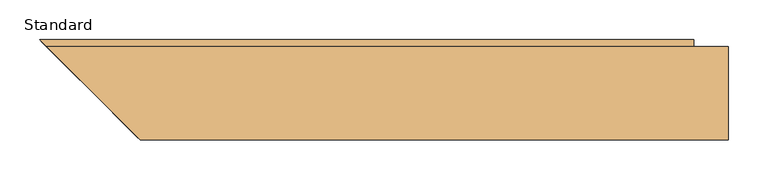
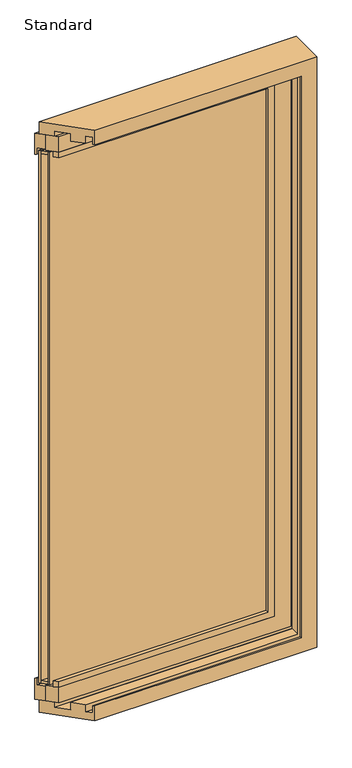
"""IFC4 building model written with IfcOpenShell, lengths in millimetres: door geometry, SMARTS_Visoglide Plus Corner : Standard."""

import ifcopenshell
import ifcopenshell.guid

model = None  # the IFC model being written
_history = None  # IfcOwnerHistory: only IFC2X3 demands one
_inside = {}  # id of a spatial element -> (the spatial element, [elements in it])
_under = {}  # id of a project, library or spatial element -> (it, [spatial elements below it])
_declared = {}  # id of a project -> (the project, [libraries it declares])
_typed = {}  # id of a type object -> (the type object, [elements of that type])
_made_of = {}  # id of a material, layer set ... -> (it, [elements and type objects made of it])


def new_model(schema):
    """Start an empty IFC model of exactly this schema.

    Asked for "IFC4X3", IfcOpenShell would pick the latest addendum, in which some entities
    have other attributes; the version numbers below select the first issue.
    IFC2X3 requires an IfcOwnerHistory on every rooted entity: one is made here for all.
    """
    global model, _history
    if schema == "IFC4X3":
        model = ifcopenshell.file(schema_version=(4, 3, 0, 0))
    else:
        model = ifcopenshell.file(schema=schema)
    _inside.clear()
    _under.clear()
    _declared.clear()
    _typed.clear()
    _made_of.clear()
    _history = None
    if model.schema == "IFC2X3":
        org = make("IfcOrganization", Name="unknown")
        user = make(
            "IfcPersonAndOrganization",
            ThePerson=make("IfcPerson", FamilyName="unknown"),
            TheOrganization=org,
        )
        app = make(
            "IfcApplication",
            ApplicationDeveloper=org,
            Version="unknown",
            ApplicationFullName="unknown",
            ApplicationIdentifier="unknown",
        )
        _history = make(
            "IfcOwnerHistory",
            OwningUser=user,
            OwningApplication=app,
            ChangeAction="ADDED",
            CreationDate=0,
        )
    return model


def make(cls, **values):
    """One entity of the class cls with the attributes given. An attribute that is None is left unset."""
    return model.create_entity(
        cls, **{name: value for name, value in values.items() if value is not None}
    )


def rooted(cls, **values):
    """An entity with a GlobalId (a new one), such as an element, a storey or a relation."""
    return make(cls, GlobalId=ifcopenshell.guid.new(), OwnerHistory=_history, **values)


def si_unit(unit_type, name, prefix=None):
    """IfcSIUnit, for example si_unit("LENGTHUNIT", "METRE", prefix="MILLI")."""
    return make("IfcSIUnit", UnitType=unit_type, Prefix=prefix, Name=name)


def assignment(units):
    """IfcUnitAssignment: the units of a project."""
    return None if units is None else make("IfcUnitAssignment", Units=units)


def point(xyz):
    """IfcCartesianPoint."""
    return None if xyz is None else make("IfcCartesianPoint", Coordinates=xyz)


def direction(xyz):
    """IfcDirection."""
    return None if xyz is None else make("IfcDirection", DirectionRatios=xyz)


def frame(location, z_axis=None, x_axis=None):
    """IfcAxis2Placement3D, a coordinate frame: its origin and axes. An axis left out is left unset."""
    return make(
        "IfcAxis2Placement3D",
        Location=point(location),
        Axis=direction(z_axis),
        RefDirection=direction(x_axis),
    )


def origin():
    """The frame at (0, 0, 0) with its axes left unset."""
    return frame((0.0, 0.0, 0.0))


def place(relative_to, where):
    """IfcLocalPlacement: puts the frame where relative to a parent placement (None: the world)."""
    return make(
        "IfcLocalPlacement", PlacementRelTo=relative_to, RelativePlacement=where
    )


def context(
    kind, dimensions, precision=None, world=None, true_north=None, identifier=None
):
    """IfcGeometricRepresentationContext, for example the 3D "Model" context."""
    return make(
        "IfcGeometricRepresentationContext",
        ContextIdentifier=identifier,
        ContextType=kind,
        CoordinateSpaceDimension=dimensions,
        Precision=precision,
        WorldCoordinateSystem=world,
        TrueNorth=true_north,
    )


def project(units=None, contexts=None):
    """IfcProject with its units and contexts."""
    return rooted(
        "IfcProject",
        Name="project",
        RepresentationContexts=contexts,
        UnitsInContext=assignment(units),
    )


def spatial(cls, under=None, at=None, **own):
    """A site, building, storey or space (cls), placed at a placement, below another one or the project."""
    s = rooted(cls, ObjectPlacement=at, **own)
    if under is not None:
        _under.setdefault(under.id(), (under, []))[1].append(s)
    return s


def polyline(points):
    """IfcPolyline through the points."""
    return make("IfcPolyline", Points=[point(p) for p in points])


def outline(outer, holes=None, kind="AREA"):
    """IfcArbitraryClosedProfileDef: a profile drawn as a closed curve; with holes, ...WithVoids."""
    if holes is None:
        return make("IfcArbitraryClosedProfileDef", ProfileType=kind, OuterCurve=outer)
    return make(
        "IfcArbitraryProfileDefWithVoids",
        ProfileType=kind,
        OuterCurve=outer,
        InnerCurves=holes,
    )


def extrude(swept, where, along, depth):
    """IfcExtrudedAreaSolid: the profile swept, set in the frame where, extruded along a direction by depth."""
    return make(
        "IfcExtrudedAreaSolid",
        SweptArea=swept,
        Position=where,
        ExtrudedDirection=direction(along),
        Depth=depth,
    )


def faces_of(points, faces, orient=None, outer=None):
    """IfcFace entities. A face is a list of loops; a loop is a list of indices into points, from 0.

    orient and outer hold one flag for each loop. By default every Orientation is true, the
    first loop of a face is its IfcFaceOuterBound and the others are IfcFaceBound.
    """
    made = []
    for i, loops in enumerate(faces):
        bounds = []
        for j, loop in enumerate(loops):
            is_outer = j == 0 if outer is None else outer[i][j]
            bounds.append(
                make(
                    "IfcFaceOuterBound" if is_outer else "IfcFaceBound",
                    Bound=make("IfcPolyLoop", Polygon=[points[k] for k in loop]),
                    Orientation=True if orient is None else orient[i][j],
                )
            )
        made.append(make("IfcFace", Bounds=bounds))
    return made


def faceted_brep(points, faces, orient=None, outer=None, voids=None):
    """IfcFacetedBrep: a solid bounded by flat faces; with voids (closed shells), ...WithVoids."""
    shared = [point(p) for p in points]
    hull = make("IfcClosedShell", CfsFaces=faces_of(shared, faces, orient, outer))
    if voids is None:
        return make("IfcFacetedBrep", Outer=hull)
    return make(
        "IfcFacetedBrepWithVoids",
        Outer=hull,
        Voids=[
            make(cls, CfsFaces=faces_of(shared, fs, o, b)) for cls, fs, o, b in voids
        ],
    )


def shape(context_of_items, identifier, shape_type, items):
    """IfcShapeRepresentation: the items that make up one representation, for example the "Body"."""
    return make(
        "IfcShapeRepresentation",
        ContextOfItems=context_of_items,
        RepresentationIdentifier=identifier,
        RepresentationType=shape_type,
        Items=items,
    )


def source(mapping_origin, context_of_items, identifier, shape_type, items):
    """IfcRepresentationMap: a shape defined once, which mapped items show again and again."""
    return make(
        "IfcRepresentationMap",
        MappingOrigin=mapping_origin,
        MappedRepresentation=shape(context_of_items, identifier, shape_type, items),
    )


def transform(
    local_origin,
    x_axis=None,
    y_axis=None,
    z_axis=None,
    scale=None,
    scale2=None,
    scale3=None,
    uniform=True,
):
    """IfcCartesianTransformationOperator3D, or its non-uniform kind. x_axis, y_axis, z_axis: its Axis1, 2, 3."""
    if uniform:
        return make(
            "IfcCartesianTransformationOperator3D",
            Axis1=direction(x_axis),
            Axis2=direction(y_axis),
            LocalOrigin=point(local_origin),
            Scale=scale,
            Axis3=direction(z_axis),
        )
    return make(
        "IfcCartesianTransformationOperator3DnonUniform",
        Axis1=direction(x_axis),
        Axis2=direction(y_axis),
        LocalOrigin=point(local_origin),
        Scale=scale,
        Axis3=direction(z_axis),
        Scale2=scale2,
        Scale3=scale3,
    )


def mapped(mapping_source, mapping_target):
    """IfcMappedItem: shows the shape of a source again, moved by a transform."""
    return make(
        "IfcMappedItem", MappingSource=mapping_source, MappingTarget=mapping_target
    )


def made_of(thing, what):
    """Note that an element or type object is made of a material, layer set ...; save() writes the relation."""
    if what is not None:
        _made_of.setdefault(what.id(), (what, []))[1].append(thing)
    return thing


def element(
    cls,
    number,
    at=None,
    inside=None,
    cuts=None,
    type_object=None,
    material=None,
    context=None,
    identifier="Body",
    shape_type=None,
    held_by="IfcProductDefinitionShape",
    body=None,
    shapes=None,
    **own,
):
    """One element of the class cls, such as IfcWall. Its Tag is "e" and its number.

    at: its placement. inside: the storey or other place that contains it. cuts: it is an
    opening in that element (IfcRelVoidsElement). A single representation is given by context,
    identifier, shape_type and body (its items); several are given by shapes. held_by: the class
    of the entity that holds the representations. save() writes the other relations.
    """
    e = rooted(cls, Tag="e%d" % number, ObjectPlacement=at, **own)
    if body is not None:
        shapes = [shape(context, identifier, shape_type, body)]
    if shapes is not None:
        e.Representation = make(held_by, Representations=shapes)
    if inside is not None:
        _inside.setdefault(inside.id(), (inside, []))[1].append(e)
    if cuts is not None:
        rooted(
            "IfcRelVoidsElement", RelatingBuildingElement=cuts, RelatedOpeningElement=e
        )
    if type_object is not None:
        _typed.setdefault(type_object.id(), (type_object, []))[1].append(e)
    return made_of(e, material)


def aggregate(whole, parts):
    """IfcRelAggregates: a whole, such as a stair, and the parts it consists of."""
    return rooted("IfcRelAggregates", RelatingObject=whole, RelatedObjects=parts)


def save(model, path):
    """Write the relations noted so far, then the file.

    IfcRelAggregates (storeys below a building ...), IfcRelContainedInSpatialStructure (elements
    in a storey), IfcRelDefinesByType, IfcRelAssociatesMaterial and IfcRelDeclares: one each for
    every whole, place, type object, material and project.
    """
    for whole, parts in _under.values():
        aggregate(whole, parts)
    for where, things in _inside.values():
        rooted(
            "IfcRelContainedInSpatialStructure",
            RelatedElements=things,
            RelatingStructure=where,
        )
    for kind, things in _typed.values():
        rooted("IfcRelDefinesByType", RelatedObjects=things, RelatingType=kind)
    for what, things in _made_of.values():
        rooted("IfcRelAssociatesMaterial", RelatedObjects=things, RelatingMaterial=what)
    for by, libraries in _declared.values():
        rooted("IfcRelDeclares", RelatingContext=by, RelatedDefinitions=libraries)
    model.write(path)


def standard_fb16d16e(model_context):
    return source(origin(), model_context, "Body", "SolidModel", [
        extrude(outline(polyline([(392.5, 24.0), (392.5, 20.0), (-363.0, 20.0), (-367.0, 24.0), (392.5, 24.0)])), frame((0.0, 0.0, 907.5), z_axis=(0.0, 0.0, 1.0), x_axis=(1.0, 0.0, 0.0)), (0.0, 0.0, 1.0), 1885.0),
        extrude(outline(polyline([(392.5, 4.0), (392.5, 0.0), (-343.0, 0.0), (-347.0, 4.0), (392.5, 4.0)])), frame((0.0, 0.0, 907.5), z_axis=(0.0, 0.0, 1.0), x_axis=(1.0, 0.0, 0.0)), (0.0, 0.0, 1.0), 1885.0),
        faceted_brep([(382.5, 4.0, 2782.5), (382.5, 20.0, 2782.5), (382.5, 20.0, 917.5), (382.5, 4.0, 917.5), (-347.0, 4.0, 917.5), (-347.0, 4.0, 907.5), (392.5, 4.0, 907.5), (392.5, 4.0, 2792.5), (-347.0, 4.0, 2792.5), (-347.0, 4.0, 2782.5), (-363.0, 20.0, 2782.5), (392.5, 20.0, 2792.5), (-363.0, 20.0, 2792.5), (392.5, 20.0, 907.5), (-363.0, 20.0, 917.5), (-363.0, 20.0, 907.5)], [[[0, 1, 2, 3]], [[0, 3, 4, 5, 6, 7, 8, 9]], [[1, 0, 9, 10]], [[7, 11, 12, 8]], [[11, 7, 6, 13]], [[3, 2, 14, 4]], [[13, 6, 5, 15]], [[2, 1, 10, 12, 11, 13, 15, 14]], [[10, 9, 8, 12]], [[4, 14, 15, 5]]]),
        faceted_brep([(-335.9897777, -7.0102223, 2777.5), (-324.0, -19.0, 2777.5), (-324.0, -19.0, 2797.5), (-335.9897777, -7.0102223, 2797.5), (-324.0, -19.0, 922.5), (-335.9897777, -7.0102223, 922.5), (-335.9897777, -7.0102223, 902.5), (-324.0, -19.0, 902.5), (377.5, -7.0102223, 922.5), (377.5, -19.0, 922.5), (377.5, -19.0, 2777.5), (377.5, -7.0102223, 2777.5), (397.5, -19.0, 902.5), (397.5, -7.0102223, 902.5), (397.5, -7.0102223, 2797.5), (397.5, -19.0, 2797.5)], [[[0, 1, 2, 3]], [[4, 5, 6, 7]], [[8, 9, 10, 11]], [[12, 13, 14, 15]], [[11, 10, 1, 0]], [[15, 14, 3, 2]], [[9, 8, 5, 4]], [[8, 11, 0, 3, 14, 13, 6, 5]], [[13, 12, 7, 6]], [[10, 9, 4, 7, 12, 15, 2, 1]]]),
        faceted_brep([(-324.0, -19.0, 2851.5), (-352.5, 9.5, 2851.5), (-352.5, 9.5, 2797.5), (-324.0, -19.0, 2797.5), (-352.5, 9.5, 902.5), (-352.5, 9.5, 848.5), (-324.0, -19.0, 848.5), (-324.0, -19.0, 902.5), (451.5, -19.0, 848.5), (451.5, 9.5, 848.5), (451.5, 9.5, 2851.5), (451.5, -19.0, 2851.5), (397.5, 9.5, 902.5), (397.5, -19.0, 902.5), (397.5, -19.0, 2797.5), (397.5, 9.5, 2797.5)], [[[0, 1, 2, 3]], [[4, 5, 6, 7]], [[8, 9, 10, 11]], [[12, 13, 14, 15]], [[11, 10, 1, 0]], [[15, 14, 3, 2]], [[10, 9, 5, 4, 12, 15, 2, 1]], [[9, 8, 6, 5]], [[8, 11, 0, 3, 14, 13, 7, 6]], [[13, 12, 4, 7]]]),
        faceted_brep([(-371.0, 28.0, 922.5), (-375.0, 32.0, 922.5), (-375.0, 32.0, 848.5), (-352.5, 9.5, 848.5), (-352.5, 9.5, 899.5), (-371.0, 28.0, 899.5), (-375.0, 32.0, 2851.5), (-375.0, 32.0, 2777.5), (-371.0, 28.0, 2777.5), (-371.0, 28.0, 2800.5), (-352.5, 9.5, 2800.5), (-352.5, 9.5, 2851.5), (377.5, 28.0, 2777.5), (377.5, 32.0, 2777.5), (377.5, 32.0, 922.5), (377.5, 28.0, 922.5), (400.5, 9.5, 2800.5), (400.5, 28.0, 2800.5), (400.5, 28.0, 899.5), (400.5, 9.5, 899.5), (451.5, 32.0, 2851.5), (451.5, 9.5, 2851.5), (451.5, 9.5, 848.5), (451.5, 32.0, 848.5)], [[[0, 1, 2, 3, 4, 5]], [[6, 7, 8, 9, 10, 11]], [[12, 13, 14, 15]], [[16, 17, 18, 19]], [[20, 21, 22, 23]], [[15, 14, 1, 0]], [[19, 18, 5, 4]], [[23, 22, 3, 2]], [[14, 13, 7, 6, 20, 23, 2, 1]], [[13, 12, 8, 7]], [[12, 15, 0, 5, 18, 17, 9, 8]], [[17, 16, 10, 9]], [[16, 19, 4, 3, 22, 21, 11, 10]], [[21, 20, 6, 11]]]),
        faceted_brep([(495.0, -95.0, 2895.0), (495.0, 22.7989407, 2895.0), (-365.7989407, 22.7989407, 2895.0), (-248.0, -95.0, 2895.0), (443.1999999, -91.0, 2843.1999999), (443.1999999, -95.0, 2843.1999999), (-248.0, -95.0, 2843.1999999), (-252.0, -91.0, 2843.1999999), (469.1999999, -76.3, 2869.1999999), (469.1999999, -91.0, 2869.1999999), (-252.0, -91.0, 2869.1999999), (-266.7, -76.3, 2869.1999999), (443.1999999, -43.7842251, 2843.1999999), (443.1999999, -76.3, 2843.1999999), (-266.7, -76.3, 2843.1999999), (-299.2157749, -43.7842251, 2843.1999999), (469.1999999, -9.7842251, 2869.1999999), (469.1999999, -43.7842251, 2869.1999999), (-299.2157749, -43.7842251, 2869.1999999), (-333.2157749, -9.7842251, 2869.1999999), (443.1999999, 22.7989407, 2843.1999999), (443.1999999, -9.7842251, 2843.1999999), (-333.2157749, -9.7842251, 2843.1999999), (-365.7989407, 22.7989407, 2843.1999999), (495.0, 22.7989407, 805.0), (495.0, -95.0, 805.0), (-248.0, -95.0, 805.0), (-365.7989407, 22.7989407, 805.0), (443.1999999, -95.0, 856.8000001), (443.1999999, -91.0, 856.8000001), (-252.0, -91.0, 856.8000001), (-248.0, -95.0, 856.8000001), (469.1999999, -91.0, 830.8000001), (469.1999999, -76.3, 830.8000001), (-266.7, -76.3, 830.8000001), (-252.0, -91.0, 830.8000001), (443.1999999, -76.3, 856.8000001), (443.1999999, -43.7842251, 856.8000001), (-299.2157749, -43.7842251, 856.8000001), (-266.7, -76.3, 856.8000001), (469.1999999, -43.7842251, 830.8000001), (469.1999999, -9.7842251, 830.8000001), (-333.2157749, -9.7842251, 830.8000001), (-299.2157749, -43.7842251, 830.8000001), (443.1999999, -9.7842251, 856.8000001), (443.1999999, 22.7989407, 856.8000001), (-365.7989407, 22.7989407, 856.8000001), (-333.2157749, -9.7842251, 856.8000001)], [[[0, 1, 2, 3]], [[4, 5, 6, 7]], [[8, 9, 10, 11]], [[12, 13, 14, 15]], [[16, 17, 18, 19]], [[20, 21, 22, 23]], [[24, 25, 26, 27]], [[28, 29, 30, 31]], [[32, 33, 34, 35]], [[36, 37, 38, 39]], [[40, 41, 42, 43]], [[44, 45, 46, 47]], [[1, 0, 25, 24]], [[25, 0, 3, 6, 5, 28, 31, 26]], [[5, 4, 29, 28]], [[29, 4, 7, 10, 9, 32, 35, 30]], [[9, 8, 33, 32]], [[33, 8, 11, 14, 13, 36, 39, 34]], [[13, 12, 37, 36]], [[37, 12, 15, 18, 17, 40, 43, 38]], [[17, 16, 41, 40]], [[41, 16, 19, 22, 21, 44, 47, 42]], [[21, 20, 45, 44]], [[1, 24, 27, 46, 45, 20, 23, 2]], [[3, 2, 23, 22, 19, 18, 15, 14, 11, 10, 7, 6]], [[27, 26, 31, 30, 35, 34, 39, 38, 43, 42, 47, 46]]]),
    ])


if __name__ == "__main__":
    model = new_model("IFC4")
    model_context = context("Model", 3, world=origin())
    ifc_project = project(units=[si_unit("LENGTHUNIT", "METRE", prefix="MILLI")], contexts=[model_context])
    site = spatial("IfcSite", under=ifc_project)
    building = spatial("IfcBuilding", under=site)
    placement = place(None, origin())
    standard_shape = standard_fb16d16e(model_context)
    element("IfcDoor", 1, ObjectType="SMARTS_Visoglide Plus Corner : Standard", at=placement, inside=building, context=model_context, shape_type="MappedRepresentation", body=[
        mapped(standard_shape, transform((0.0, 0.0, 0.0), x_axis=(1.0, 0.0, 0.0), y_axis=(0.0, 1.0, 0.0), z_axis=(0.0, 0.0, 1.0))),
    ])
    save(model, "model.ifc")
